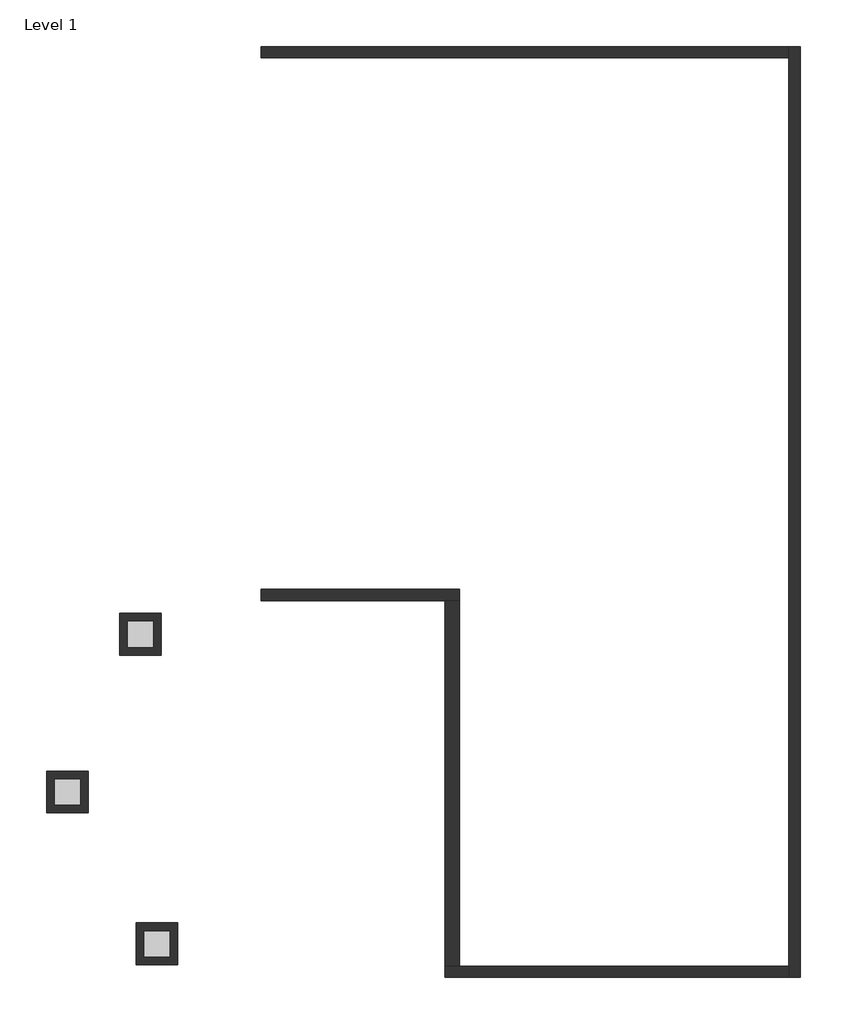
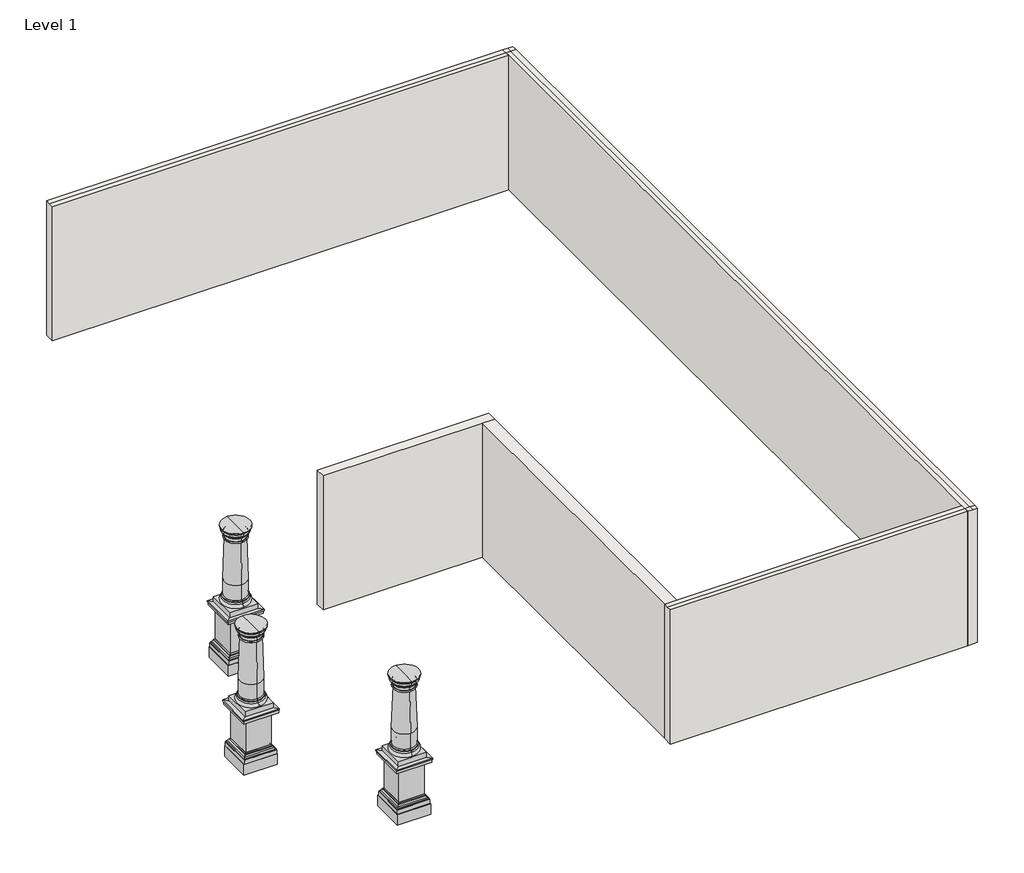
# One storey, incomplete: 5 walls, 3 columns.
"""IFC4 building model written with IfcOpenShell, lengths in millimetres."""

import ifcopenshell
import ifcopenshell.guid

model = None  # the IFC model being written
_history = None  # IfcOwnerHistory: only IFC2X3 demands one
_inside = {}  # id of a spatial element -> (the spatial element, [elements in it])
_under = {}  # id of a project, library or spatial element -> (it, [spatial elements below it])
_declared = {}  # id of a project -> (the project, [libraries it declares])
_typed = {}  # id of a type object -> (the type object, [elements of that type])
_made_of = {}  # id of a material, layer set ... -> (it, [elements and type objects made of it])


def new_model(schema):
    """Start an empty IFC model of exactly this schema.

    Asked for "IFC4X3", IfcOpenShell would pick the latest addendum, in which some entities
    have other attributes; the version numbers below select the first issue.
    IFC2X3 requires an IfcOwnerHistory on every rooted entity: one is made here for all.
    """
    global model, _history
    if schema == "IFC4X3":
        model = ifcopenshell.file(schema_version=(4, 3, 0, 0))
    else:
        model = ifcopenshell.file(schema=schema)
    _inside.clear()
    _under.clear()
    _declared.clear()
    _typed.clear()
    _made_of.clear()
    _history = None
    if model.schema == "IFC2X3":
        org = make("IfcOrganization", Name="unknown")
        user = make(
            "IfcPersonAndOrganization",
            ThePerson=make("IfcPerson", FamilyName="unknown"),
            TheOrganization=org,
        )
        app = make(
            "IfcApplication",
            ApplicationDeveloper=org,
            Version="unknown",
            ApplicationFullName="unknown",
            ApplicationIdentifier="unknown",
        )
        _history = make(
            "IfcOwnerHistory",
            OwningUser=user,
            OwningApplication=app,
            ChangeAction="ADDED",
            CreationDate=0,
        )
    return model


def make(cls, **values):
    """One entity of the class cls with the attributes given. An attribute that is None is left unset."""
    return model.create_entity(
        cls, **{name: value for name, value in values.items() if value is not None}
    )


def rooted(cls, **values):
    """An entity with a GlobalId (a new one), such as an element, a storey or a relation."""
    return make(cls, GlobalId=ifcopenshell.guid.new(), OwnerHistory=_history, **values)


def si_unit(unit_type, name, prefix=None):
    """IfcSIUnit, for example si_unit("LENGTHUNIT", "METRE", prefix="MILLI")."""
    return make("IfcSIUnit", UnitType=unit_type, Prefix=prefix, Name=name)


def assignment(units):
    """IfcUnitAssignment: the units of a project."""
    return None if units is None else make("IfcUnitAssignment", Units=units)


def point(xyz):
    """IfcCartesianPoint."""
    return None if xyz is None else make("IfcCartesianPoint", Coordinates=xyz)


def direction(xyz):
    """IfcDirection."""
    return None if xyz is None else make("IfcDirection", DirectionRatios=xyz)


def frame(location, z_axis=None, x_axis=None):
    """IfcAxis2Placement3D, a coordinate frame: its origin and axes. An axis left out is left unset."""
    return make(
        "IfcAxis2Placement3D",
        Location=point(location),
        Axis=direction(z_axis),
        RefDirection=direction(x_axis),
    )


def origin():
    """The frame at (0, 0, 0) with its axes left unset."""
    return frame((0.0, 0.0, 0.0))


def origin_with_axes():
    """The frame at (0, 0, 0) with the z axis (0, 0, 1) and the x axis (1, 0, 0) written out."""
    return frame((0.0, 0.0, 0.0), z_axis=(0.0, 0.0, 1.0), x_axis=(1.0, 0.0, 0.0))


def place(relative_to, where):
    """IfcLocalPlacement: puts the frame where relative to a parent placement (None: the world)."""
    return make(
        "IfcLocalPlacement", PlacementRelTo=relative_to, RelativePlacement=where
    )


def context(
    kind, dimensions, precision=None, world=None, true_north=None, identifier=None
):
    """IfcGeometricRepresentationContext, for example the 3D "Model" context."""
    return make(
        "IfcGeometricRepresentationContext",
        ContextIdentifier=identifier,
        ContextType=kind,
        CoordinateSpaceDimension=dimensions,
        Precision=precision,
        WorldCoordinateSystem=world,
        TrueNorth=true_north,
    )


def project(units=None, contexts=None):
    """IfcProject with its units and contexts."""
    return rooted(
        "IfcProject",
        Name="project",
        RepresentationContexts=contexts,
        UnitsInContext=assignment(units),
    )


def spatial(cls, under=None, at=None, **own):
    """A site, building, storey or space (cls), placed at a placement, below another one or the project."""
    s = rooted(cls, ObjectPlacement=at, **own)
    if under is not None:
        _under.setdefault(under.id(), (under, []))[1].append(s)
    return s


def polyline(points):
    """IfcPolyline through the points."""
    return make("IfcPolyline", Points=[point(p) for p in points])


def circle_curve(where, radius):
    """IfcCircle in the frame where."""
    return make("IfcCircle", Position=where, Radius=radius)


def ellipse_curve(where, semi_axis1, semi_axis2):
    """IfcEllipse in the frame where."""
    return make(
        "IfcEllipse", Position=where, SemiAxis1=semi_axis1, SemiAxis2=semi_axis2
    )


def trimmed(basis, trim1, trim2, sense, master):
    """IfcTrimmedCurve: the piece of a basis curve between two trims."""
    return make(
        "IfcTrimmedCurve",
        BasisCurve=basis,
        Trim1=trim1,
        Trim2=trim2,
        SenseAgreement=sense,
        MasterRepresentation=master,
    )


def outline(outer, holes=None, kind="AREA"):
    """IfcArbitraryClosedProfileDef: a profile drawn as a closed curve; with holes, ...WithVoids."""
    if holes is None:
        return make("IfcArbitraryClosedProfileDef", ProfileType=kind, OuterCurve=outer)
    return make(
        "IfcArbitraryProfileDefWithVoids",
        ProfileType=kind,
        OuterCurve=outer,
        InnerCurves=holes,
    )


def extrude(swept, where, along, depth):
    """IfcExtrudedAreaSolid: the profile swept, set in the frame where, extruded along a direction by depth."""
    return make(
        "IfcExtrudedAreaSolid",
        SweptArea=swept,
        Position=where,
        ExtrudedDirection=direction(along),
        Depth=depth,
    )


def faces_of(points, faces, orient=None, outer=None):
    """IfcFace entities. A face is a list of loops; a loop is a list of indices into points, from 0.

    orient and outer hold one flag for each loop. By default every Orientation is true, the
    first loop of a face is its IfcFaceOuterBound and the others are IfcFaceBound.
    """
    made = []
    for i, loops in enumerate(faces):
        bounds = []
        for j, loop in enumerate(loops):
            is_outer = j == 0 if outer is None else outer[i][j]
            bounds.append(
                make(
                    "IfcFaceOuterBound" if is_outer else "IfcFaceBound",
                    Bound=make("IfcPolyLoop", Polygon=[points[k] for k in loop]),
                    Orientation=True if orient is None else orient[i][j],
                )
            )
        made.append(make("IfcFace", Bounds=bounds))
    return made


def faceted_brep(points, faces, orient=None, outer=None, voids=None):
    """IfcFacetedBrep: a solid bounded by flat faces; with voids (closed shells), ...WithVoids."""
    shared = [point(p) for p in points]
    hull = make("IfcClosedShell", CfsFaces=faces_of(shared, faces, orient, outer))
    if voids is None:
        return make("IfcFacetedBrep", Outer=hull)
    return make(
        "IfcFacetedBrepWithVoids",
        Outer=hull,
        Voids=[
            make(cls, CfsFaces=faces_of(shared, fs, o, b)) for cls, fs, o, b in voids
        ],
    )


def shape(context_of_items, identifier, shape_type, items):
    """IfcShapeRepresentation: the items that make up one representation, for example the "Body"."""
    return make(
        "IfcShapeRepresentation",
        ContextOfItems=context_of_items,
        RepresentationIdentifier=identifier,
        RepresentationType=shape_type,
        Items=items,
    )


def source(mapping_origin, context_of_items, identifier, shape_type, items):
    """IfcRepresentationMap: a shape defined once, which mapped items show again and again."""
    return make(
        "IfcRepresentationMap",
        MappingOrigin=mapping_origin,
        MappedRepresentation=shape(context_of_items, identifier, shape_type, items),
    )


def transform(
    local_origin,
    x_axis=None,
    y_axis=None,
    z_axis=None,
    scale=None,
    scale2=None,
    scale3=None,
    uniform=True,
):
    """IfcCartesianTransformationOperator3D, or its non-uniform kind. x_axis, y_axis, z_axis: its Axis1, 2, 3."""
    if uniform:
        return make(
            "IfcCartesianTransformationOperator3D",
            Axis1=direction(x_axis),
            Axis2=direction(y_axis),
            LocalOrigin=point(local_origin),
            Scale=scale,
            Axis3=direction(z_axis),
        )
    return make(
        "IfcCartesianTransformationOperator3DnonUniform",
        Axis1=direction(x_axis),
        Axis2=direction(y_axis),
        LocalOrigin=point(local_origin),
        Scale=scale,
        Axis3=direction(z_axis),
        Scale2=scale2,
        Scale3=scale3,
    )


def mapped(mapping_source, mapping_target):
    """IfcMappedItem: shows the shape of a source again, moved by a transform."""
    return make(
        "IfcMappedItem", MappingSource=mapping_source, MappingTarget=mapping_target
    )


def made_of(thing, what):
    """Note that an element or type object is made of a material, layer set ...; save() writes the relation."""
    if what is not None:
        _made_of.setdefault(what.id(), (what, []))[1].append(thing)
    return thing


def element(
    cls,
    number,
    at=None,
    inside=None,
    cuts=None,
    type_object=None,
    material=None,
    context=None,
    identifier="Body",
    shape_type=None,
    held_by="IfcProductDefinitionShape",
    body=None,
    shapes=None,
    **own,
):
    """One element of the class cls, such as IfcWall. Its Tag is "e" and its number.

    at: its placement. inside: the storey or other place that contains it. cuts: it is an
    opening in that element (IfcRelVoidsElement). A single representation is given by context,
    identifier, shape_type and body (its items); several are given by shapes. held_by: the class
    of the entity that holds the representations. save() writes the other relations.
    """
    e = rooted(cls, Tag="e%d" % number, ObjectPlacement=at, **own)
    if body is not None:
        shapes = [shape(context, identifier, shape_type, body)]
    if shapes is not None:
        e.Representation = make(held_by, Representations=shapes)
    if inside is not None:
        _inside.setdefault(inside.id(), (inside, []))[1].append(e)
    if cuts is not None:
        rooted(
            "IfcRelVoidsElement", RelatingBuildingElement=cuts, RelatedOpeningElement=e
        )
    if type_object is not None:
        _typed.setdefault(type_object.id(), (type_object, []))[1].append(e)
    return made_of(e, material)


def aggregate(whole, parts):
    """IfcRelAggregates: a whole, such as a stair, and the parts it consists of."""
    return rooted("IfcRelAggregates", RelatingObject=whole, RelatedObjects=parts)


def save(model, path):
    """Write the relations noted so far, then the file.

    IfcRelAggregates (storeys below a building ...), IfcRelContainedInSpatialStructure (elements
    in a storey), IfcRelDefinesByType, IfcRelAssociatesMaterial and IfcRelDeclares: one each for
    every whole, place, type object, material and project.
    """
    for whole, parts in _under.values():
        aggregate(whole, parts)
    for where, things in _inside.values():
        rooted(
            "IfcRelContainedInSpatialStructure",
            RelatedElements=things,
            RelatingStructure=where,
        )
    for kind, things in _typed.values():
        rooted("IfcRelDefinesByType", RelatedObjects=things, RelatingType=kind)
    for what, things in _made_of.values():
        rooted("IfcRelAssociatesMaterial", RelatedObjects=things, RelatingMaterial=what)
    for by, libraries in _declared.values():
        rooted("IfcRelDeclares", RelatingContext=by, RelatedDefinitions=libraries)
    model.write(path)


def plane_surface(at):
    """IfcPlane: the flat surface through the origin of the frame at, square to its z axis."""
    return make("IfcPlane", Position=at)


def cylinder_surface(at, radius):
    """IfcCylindricalSurface: all points at the distance radius from the z axis of the frame at."""
    return make("IfcCylindricalSurface", Position=at, Radius=radius)


def revolved_surface(curve, axis_point, axis_direction):
    """IfcSurfaceOfRevolution: the curve turned about the line through axis_point along axis_direction."""
    return make(
        "IfcSurfaceOfRevolution",
        SweptCurve=make("IfcArbitraryOpenProfileDef", ProfileType="CURVE", Curve=curve),
        AxisPosition=make("IfcAxis1Placement", Location=point(axis_point), Axis=direction(axis_direction)),
    )


def advanced_brep(points, edges, surfaces, faces):
    """IfcAdvancedBrep: a solid bounded by faces that lie on surfaces and meet in shared edges.

    An edge is (start, end): straight between two places in points (the first is 0);
    or (start, end, curve); or (start, end, curve, False) where it runs against its curve.
    A face is (place in surfaces, loops), or (place, loops, False) where it looks against
    its surface's normal. A loop lists edges by number (the first is 1), with a minus sign
    where the edge is run from its end to its start. The first loop is the outer one.
    """
    corners = [point(p) for p in points]
    vertices = [make("IfcVertexPoint", VertexGeometry=c) for c in corners]
    made = []
    for start, end, *more in edges:
        made.append(
            make(
                "IfcEdgeCurve",
                EdgeStart=vertices[start],
                EdgeEnd=vertices[end],
                EdgeGeometry=more[0] if more else make("IfcPolyline", Points=[corners[start], corners[end]]),
                SameSense=more[1] if len(more) > 1 else True,
            )
        )
    hull = []
    for where, loops, *sense in faces:
        bounds = []
        for j, loop in enumerate(loops):
            ring = [make("IfcOrientedEdge", EdgeElement=made[abs(k) - 1], Orientation=k > 0) for k in loop]
            bounds.append(
                make(
                    "IfcFaceOuterBound" if j == 0 else "IfcFaceBound",
                    Bound=make("IfcEdgeLoop", EdgeList=ring),
                    Orientation=True,
                )
            )
        hull.append(make("IfcAdvancedFace", Bounds=bounds, FaceSurface=surfaces[where], SameSense=sense[0] if sense else True))
    return make("IfcAdvancedBrep", Outer=make("IfcClosedShell", CfsFaces=hull))


def doric_column_f5a78e18(model_context):
    return source(origin(), model_context, "Body", "SolidModel", [
        extrude(outline(polyline([(263.525, 263.525), (263.525, -263.525), (-263.525, -263.525), (-263.525, 263.525), (263.525, 263.525)])), frame((0.0, 0.0, 419.1), z_axis=(0.0, 0.0, 1.0), x_axis=(1.0, 0.0, 0.0)), (0.0, 0.0, 1.0), 685.8),
        advanced_brep(
        [(345.4451463, 345.4451463, 0.0), (345.4451463, 345.4451463, 228.6), (345.4451463, -345.4451463, 228.6), (345.4451463, -345.4451463, 0.0), (228.6, 228.6, 0.0), (228.6, -228.6, 0.0), (228.6, 228.6, 419.1), (228.6, -228.6, 419.1), (262.8951463, 262.8951463, 419.1), (262.8951463, -262.8951463, 419.1), (281.9451463, 281.9451463, 400.05), (281.9451463, -281.9451463, 400.05), (281.9451463, 281.9451463, 381.0), (281.9451463, -281.9451463, 381.0), (304.1701463, 304.1701463, 358.775), (304.1701463, -304.1701463, 358.775), (326.3951463, 326.3951463, 336.55), (326.3951463, -326.3951463, 336.55), (326.3951463, 326.3951463, 317.5), (326.3951463, -326.3951463, 317.5), (335.9201463, 335.9201463, 317.5), (335.9201463, -335.9201463, 317.5), (335.9201463, 335.9201463, 228.6), (335.9201463, -335.9201463, 228.6), (-345.4451463, -345.4451463, 228.6), (-345.4451463, -345.4451463, 0.0), (-228.6, -228.6, 0.0), (-228.6, -228.6, 419.1), (-262.8951463, -262.8951463, 419.1), (-281.9451463, -281.9451463, 400.05), (-281.9451463, -281.9451463, 381.0), (-304.1701463, -304.1701463, 358.775), (-326.3951463, -326.3951463, 336.55), (-326.3951463, -326.3951463, 317.5), (-335.9201463, -335.9201463, 317.5), (-335.9201463, -335.9201463, 228.6), (-345.4451463, 345.4451463, 228.6), (-345.4451463, 345.4451463, 0.0), (-228.6, 228.6, 0.0), (-228.6, 228.6, 419.1), (-262.8951463, 262.8951463, 419.1), (-281.9451463, 281.9451463, 400.05), (-281.9451463, 281.9451463, 381.0), (-304.1701463, 304.1701463, 358.775), (-326.3951463, 326.3951463, 336.55), (-326.3951463, 326.3951463, 317.5), (-335.9201463, 335.9201463, 317.5), (-335.9201463, 335.9201463, 228.6)],
        [
            (0, 1),
            (1, 2),
            (2, 3),
            (3, 0),
            (4, 0),
            (3, 5),
            (5, 4),
            (6, 4),
            (5, 7),
            (7, 6),
            (8, 6),
            (7, 9),
            (9, 8),
            (10, 8, ellipse_curve(frame((281.9451463, 281.9451463, 419.1), z_axis=(-0.7071067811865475, 0.7071067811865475, 0.0), x_axis=(-0.7071067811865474, -0.7071067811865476, 0.0)), 26.9407684, 19.05)),
            (9, 11, ellipse_curve(frame((281.9451463, -281.9451463, 419.1), z_axis=(-0.7071067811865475, -0.7071067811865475, 0.0), x_axis=(0.7071067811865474, -0.7071067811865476, 0.0)), 26.9407684, 19.05)),
            (11, 10),
            (12, 10),
            (11, 13),
            (13, 12),
            (14, 12, ellipse_curve(frame((281.9451463, 281.9451463, 358.775), z_axis=(0.7071067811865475, -0.7071067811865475, 0.0), x_axis=(0.7071067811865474, 0.7071067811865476, 0.0)), 31.4308964, 22.225)),
            (13, 15, ellipse_curve(frame((281.9451463, -281.9451463, 358.775), z_axis=(0.7071067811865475, 0.7071067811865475, 0.0), x_axis=(-0.7071067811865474, 0.7071067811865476, 0.0)), 31.4308964, 22.225)),
            (15, 14),
            (16, 14, ellipse_curve(frame((326.3951463, 326.3951463, 358.775), z_axis=(-0.7071067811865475, 0.7071067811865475, 0.0), x_axis=(-0.7071067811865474, -0.7071067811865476, 0.0)), 31.4308964, 22.225)),
            (15, 17, ellipse_curve(frame((326.3951463, -326.3951463, 358.775), z_axis=(-0.7071067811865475, -0.7071067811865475, 0.0), x_axis=(0.7071067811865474, -0.7071067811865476, 0.0)), 31.4308964, 22.225)),
            (17, 16),
            (18, 16),
            (17, 19),
            (19, 18),
            (20, 18),
            (19, 21),
            (21, 20),
            (22, 20),
            (21, 23),
            (23, 22),
            (1, 22),
            (23, 2),
            (2, 24),
            (24, 25),
            (25, 3),
            (25, 26),
            (26, 5),
            (26, 27),
            (27, 7),
            (27, 28),
            (28, 9),
            (28, 29, ellipse_curve(frame((-281.9451463, -281.9451463, 419.1), z_axis=(-0.7071067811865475, 0.7071067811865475, 0.0), x_axis=(-0.7071067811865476, -0.7071067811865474, 0.0)), 26.9407684, 19.05)),
            (29, 11),
            (29, 30),
            (30, 13),
            (30, 31, ellipse_curve(frame((-281.9451463, -281.9451463, 358.775), z_axis=(0.7071067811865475, -0.7071067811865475, 0.0), x_axis=(0.7071067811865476, 0.7071067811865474, 0.0)), 31.4308964, 22.225)),
            (31, 15),
            (31, 32, ellipse_curve(frame((-326.3951463, -326.3951463, 358.775), z_axis=(-0.7071067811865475, 0.7071067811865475, 0.0), x_axis=(-0.7071067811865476, -0.7071067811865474, 0.0)), 31.4308964, 22.225)),
            (32, 17),
            (32, 33),
            (33, 19),
            (33, 34),
            (34, 21),
            (34, 35),
            (35, 23),
            (35, 24),
            (24, 36),
            (36, 37),
            (37, 25),
            (37, 38),
            (38, 26),
            (38, 39),
            (39, 27),
            (39, 40),
            (40, 28),
            (40, 41, ellipse_curve(frame((-281.9451463, 281.9451463, 419.1), z_axis=(0.7071067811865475, 0.7071067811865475, 0.0), x_axis=(-0.7071067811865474, 0.7071067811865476, 0.0)), 26.9407684, 19.05)),
            (41, 29),
            (41, 42),
            (42, 30),
            (42, 43, ellipse_curve(frame((-281.9451463, 281.9451463, 358.775), z_axis=(-0.7071067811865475, -0.7071067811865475, 0.0), x_axis=(0.7071067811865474, -0.7071067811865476, 0.0)), 31.4308964, 22.225)),
            (43, 31),
            (43, 44, ellipse_curve(frame((-326.3951463, 326.3951463, 358.775), z_axis=(0.7071067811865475, 0.7071067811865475, 0.0), x_axis=(-0.7071067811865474, 0.7071067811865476, 0.0)), 31.4308964, 22.225)),
            (44, 32),
            (44, 45),
            (45, 33),
            (45, 46),
            (46, 34),
            (46, 47),
            (47, 35),
            (47, 36),
            (36, 1),
            (0, 37),
            (4, 38),
            (6, 39),
            (8, 40),
            (10, 41),
            (12, 42),
            (14, 43),
            (16, 44),
            (18, 45),
            (20, 46),
            (22, 47),
        ],
        [
            plane_surface(frame((345.4451463, 345.4451463, 228.6), z_axis=(1.0, 0.0, 0.0), x_axis=(0.0, -1.0, 0.0))),
            plane_surface(frame((345.4451463, 345.4451463, 0.0), z_axis=(0.0, 0.0, -1.0), x_axis=(0.0, -1.0, 0.0))),
            plane_surface(frame((228.6, 228.6, 0.0), z_axis=(-1.0, 0.0, 0.0), x_axis=(0.0, -1.0, 0.0))),
            plane_surface(frame((228.6, 228.6, 419.1), z_axis=(0.0, 0.0, 1.0), x_axis=(0.0, -1.0, 0.0))),
            revolved_surface(polyline([(300.9951463, -300.9951463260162, 419.1), (300.9951463, 300.99514632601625, 419.1)]), (281.9451463, 358.4600732, 419.1), (0.0, -1.0, 0.0)),
            plane_surface(frame((281.9451463, 281.9451463, 400.05), z_axis=(1.0, 0.0, 0.0), x_axis=(0.0, -1.0, 0.0))),
            cylinder_surface(frame((281.9451463, 358.4600732, 358.775), z_axis=(0.0, 1.0, 0.0), x_axis=(1.0, 0.0, 0.0)), 22.225),
            revolved_surface(polyline([(348.62014630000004, -348.62014628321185, 358.775), (348.62014630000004, 348.62014628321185, 358.775)]), (326.3951463, 358.4600732, 358.775), (0.0, -1.0, 0.0)),
            plane_surface(frame((326.3951463, 326.3951463, 336.55), z_axis=(1.0, 0.0, 0.0), x_axis=(0.0, -1.0, 0.0))),
            plane_surface(frame((326.3951463, 326.3951463, 317.5), z_axis=(0.0, 0.0, 1.0), x_axis=(0.0, -1.0, 0.0))),
            plane_surface(frame((335.9201463, 335.9201463, 317.5), z_axis=(1.0, 0.0, 0.0), x_axis=(0.0, -1.0, 0.0))),
            plane_surface(frame((335.9201463, 335.9201463, 228.6), z_axis=(0.0, 0.0, 1.0), x_axis=(0.0, -1.0, 0.0))),
            plane_surface(frame((345.4451463, -345.4451463, 228.6), z_axis=(0.0, -1.0, 0.0), x_axis=(-1.0, 0.0, 0.0))),
            plane_surface(frame((345.4451463, -345.4451463, 0.0), z_axis=(0.0, 0.0, -1.0), x_axis=(-1.0, 0.0, 0.0))),
            plane_surface(frame((228.6, -228.6, 0.0), z_axis=(0.0, 1.0, 0.0), x_axis=(-1.0, 0.0, 0.0))),
            plane_surface(frame((228.6, -228.6, 419.1), z_axis=(0.0, 0.0, 1.0), x_axis=(-1.0, 0.0, 0.0))),
            revolved_surface(polyline([(-300.9951463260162, -300.9951463, 419.1), (300.9951463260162, -300.9951463, 419.1)]), (358.4600732, -281.9451463, 419.1), (-1.0, 0.0, 0.0)),
            plane_surface(frame((281.9451463, -281.9451463, 400.05), z_axis=(0.0, -1.0, 0.0), x_axis=(-1.0, 0.0, 0.0))),
            cylinder_surface(frame((358.4600732, -281.9451463, 358.775), z_axis=(1.0, 0.0, 0.0), x_axis=(0.0, -1.0, 0.0)), 22.225),
            revolved_surface(polyline([(-348.62014628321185, -348.62014630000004, 358.775), (348.62014628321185, -348.62014630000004, 358.775)]), (358.4600732, -326.3951463, 358.775), (-1.0, 0.0, 0.0)),
            plane_surface(frame((326.3951463, -326.3951463, 336.55), z_axis=(0.0, -1.0, 0.0), x_axis=(-1.0, 0.0, 0.0))),
            plane_surface(frame((326.3951463, -326.3951463, 317.5), z_axis=(0.0, 0.0, 1.0), x_axis=(-1.0, 0.0, 0.0))),
            plane_surface(frame((335.9201463, -335.9201463, 317.5), z_axis=(0.0, -1.0, 0.0), x_axis=(-1.0, 0.0, 0.0))),
            plane_surface(frame((335.9201463, -335.9201463, 228.6), z_axis=(0.0, 0.0, 1.0), x_axis=(-1.0, 0.0, 0.0))),
            plane_surface(frame((-345.4451463, -345.4451463, 228.6), z_axis=(-1.0, 0.0, 0.0), x_axis=(0.0, 1.0, 0.0))),
            plane_surface(frame((-345.4451463, -345.4451463, 0.0), z_axis=(0.0, 0.0, -1.0), x_axis=(0.0, 1.0, 0.0))),
            plane_surface(frame((-228.6, -228.6, 0.0), z_axis=(1.0, 0.0, 0.0), x_axis=(0.0, 1.0, 0.0))),
            plane_surface(frame((-228.6, -228.6, 419.1), z_axis=(0.0, 0.0, 1.0), x_axis=(0.0, 1.0, 0.0))),
            revolved_surface(polyline([(-300.9951463, 300.9951463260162, 419.1), (-300.9951463, -300.9951463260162, 419.1)]), (-281.9451463, -358.4600732, 419.1), (0.0, 1.0, 0.0)),
            plane_surface(frame((-281.9451463, -281.9451463, 400.05), z_axis=(-1.0, 0.0, 0.0), x_axis=(0.0, 1.0, 0.0))),
            cylinder_surface(frame((-281.9451463, -358.4600732, 358.775), z_axis=(0.0, -1.0, 0.0), x_axis=(-1.0, 0.0, 0.0)), 22.225),
            revolved_surface(polyline([(-348.62014630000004, 348.62014628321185, 358.775), (-348.62014630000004, -348.62014628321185, 358.775)]), (-326.3951463, -358.4600732, 358.775), (0.0, 1.0, 0.0)),
            plane_surface(frame((-326.3951463, -326.3951463, 336.55), z_axis=(-1.0, 0.0, 0.0), x_axis=(0.0, 1.0, 0.0))),
            plane_surface(frame((-326.3951463, -326.3951463, 317.5), z_axis=(0.0, 0.0, 1.0), x_axis=(0.0, 1.0, 0.0))),
            plane_surface(frame((-335.9201463, -335.9201463, 317.5), z_axis=(-1.0, 0.0, 0.0), x_axis=(0.0, 1.0, 0.0))),
            plane_surface(frame((-335.9201463, -335.9201463, 228.6), z_axis=(0.0, 0.0, 1.0), x_axis=(0.0, 1.0, 0.0))),
            plane_surface(frame((-345.4451463, 345.4451463, 228.6), z_axis=(0.0, 1.0, 0.0), x_axis=(1.0, 0.0, 0.0))),
            plane_surface(frame((-345.4451463, 345.4451463, 0.0), z_axis=(0.0, 0.0, -1.0), x_axis=(1.0, 0.0, 0.0))),
            plane_surface(frame((-228.6, 228.6, 0.0), z_axis=(0.0, -1.0, 0.0), x_axis=(1.0, 0.0, 0.0))),
            plane_surface(frame((-228.6, 228.6, 419.1), z_axis=(0.0, 0.0, 1.0), x_axis=(1.0, 0.0, 0.0))),
            revolved_surface(polyline([(300.9951463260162, 300.9951463, 419.1), (-300.9951463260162, 300.9951463, 419.1)]), (-358.4600732, 281.9451463, 419.1), (1.0, 0.0, 0.0)),
            plane_surface(frame((-281.9451463, 281.9451463, 400.05), z_axis=(0.0, 1.0, 0.0), x_axis=(1.0, 0.0, 0.0))),
            cylinder_surface(frame((-358.4600732, 281.9451463, 358.775), z_axis=(-1.0, 0.0, 0.0), x_axis=(0.0, 1.0, 0.0)), 22.225),
            revolved_surface(polyline([(348.62014628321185, 348.62014630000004, 358.775), (-348.62014628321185, 348.62014630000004, 358.775)]), (-358.4600732, 326.3951463, 358.775), (1.0, 0.0, 0.0)),
            plane_surface(frame((-326.3951463, 326.3951463, 336.55), z_axis=(0.0, 1.0, 0.0), x_axis=(1.0, 0.0, 0.0))),
            plane_surface(frame((-326.3951463, 326.3951463, 317.5), z_axis=(0.0, 0.0, 1.0), x_axis=(1.0, 0.0, 0.0))),
            plane_surface(frame((-335.9201463, 335.9201463, 317.5), z_axis=(0.0, 1.0, 0.0), x_axis=(1.0, 0.0, 0.0))),
            plane_surface(frame((-335.9201463, 335.9201463, 228.6), z_axis=(0.0, 0.0, 1.0), x_axis=(1.0, 0.0, 0.0))),
        ],
        [
            (0, [[1, 2, 3, 4]]),
            (1, [[5, -4, 6, 7]]),
            (2, [[8, -7, 9, 10]]),
            (3, [[11, -10, 12, 13]]),
            (4, [[14, -13, 15, 16]]),
            (5, [[17, -16, 18, 19]]),
            (6, [[20, -19, 21, 22]]),
            (7, [[23, -22, 24, 25]]),
            (8, [[26, -25, 27, 28]]),
            (9, [[29, -28, 30, 31]]),
            (10, [[32, -31, 33, 34]]),
            (11, [[35, -34, 36, -2]]),
            (12, [[-3, 37, 38, 39]]),
            (13, [[-6, -39, 40, 41]]),
            (14, [[-9, -41, 42, 43]]),
            (15, [[-12, -43, 44, 45]]),
            (16, [[-15, -45, 46, 47]]),
            (17, [[-18, -47, 48, 49]]),
            (18, [[-21, -49, 50, 51]]),
            (19, [[-24, -51, 52, 53]]),
            (20, [[-27, -53, 54, 55]]),
            (21, [[-30, -55, 56, 57]]),
            (22, [[-33, -57, 58, 59]]),
            (23, [[-36, -59, 60, -37]]),
            (24, [[-38, 61, 62, 63]]),
            (25, [[-40, -63, 64, 65]]),
            (26, [[-42, -65, 66, 67]]),
            (27, [[-44, -67, 68, 69]]),
            (28, [[-46, -69, 70, 71]]),
            (29, [[-48, -71, 72, 73]]),
            (30, [[-50, -73, 74, 75]]),
            (31, [[-52, -75, 76, 77]]),
            (32, [[-54, -77, 78, 79]]),
            (33, [[-56, -79, 80, 81]]),
            (34, [[-58, -81, 82, 83]]),
            (35, [[-60, -83, 84, -61]]),
            (36, [[-62, 85, -1, 86]]),
            (37, [[-64, -86, -5, 87]]),
            (38, [[-66, -87, -8, 88]]),
            (39, [[-68, -88, -11, 89]]),
            (40, [[-70, -89, -14, 90]]),
            (41, [[-72, -90, -17, 91]]),
            (42, [[-74, -91, -20, 92]]),
            (43, [[-76, -92, -23, 93]]),
            (44, [[-78, -93, -26, 94]]),
            (45, [[-80, -94, -29, 95]]),
            (46, [[-82, -95, -32, 96]]),
            (47, [[-84, -96, -35, -85]]),
        ],
    ),
        advanced_brep(
        [(0.0, -247.65, 1460.5), (0.0, 247.65, 1460.5), (0.0, 228.6, 1479.55), (0.0, -228.6, 1479.55), (0.0, 228.6, 1803.4), (0.0, -228.6, 1803.4), (0.0, -247.65, 1441.45), (0.0, 247.65, 1441.45), (0.0, -247.65, 1409.7), (0.0, 247.65, 1409.7), (0.0, -247.65, 1327.15), (0.0, 247.65, 1327.15), (0.0, 0.0, 1327.15), (0.0, 200.025, 2717.8), (0.0, -200.025, 2717.8), (0.0, -292.1, 2952.7500601), (0.0, 292.1, 2952.7500601), (0.0, 292.1, 2971.8), (0.0, -292.1, 2971.8), (0.0, 0.0, 2971.8), (0.0, -273.0499399, 2933.7), (0.0, 273.0499399, 2933.7), (0.0, -269.875, 2933.7), (0.0, 269.875, 2933.7), (0.0, -269.875, 2882.9), (0.0, 269.875, 2882.9), (0.0, -263.525, 2882.9), (0.0, 263.525, 2882.9), (0.0, -219.075, 2838.45), (0.0, 219.075, 2838.45), (0.0, -219.075, 2819.4), (0.0, 219.075, 2819.4), (0.0, -200.025, 2819.4), (0.0, 200.025, 2819.4), (0.0, -200.025, 2736.85), (0.0, 200.025, 2736.85), (0.0, -219.075, 2736.85), (0.0, 219.075, 2736.85), (0.0, -219.075, 2717.8), (0.0, 219.075, 2717.8)],
        [
            (0, 1, circle_curve(frame((0.0, 0.0, 1460.5), z_axis=(0.0, 0.0, 1.0), x_axis=(0.0, 1.0, 0.0)), 247.65)),
            (1, 2, circle_curve(frame((0.0, 247.65, 1479.55), z_axis=(-1.0, 0.0, 0.0), x_axis=(0.0, -1.0, 0.0)), 19.05)),
            (2, 3, circle_curve(frame((0.0, 0.0, 1479.55), z_axis=(0.0, 0.0, -1.0), x_axis=(0.0, 1.0, 0.0)), 228.6)),
            (3, 0, circle_curve(frame((0.0, -247.65, 1479.55), z_axis=(-1.0, 0.0, 0.0), x_axis=(0.0, 1.0, 0.0)), 19.05)),
            (2, 4),
            (4, 5, circle_curve(frame((0.0, 0.0, 1803.4), z_axis=(0.0, 0.0, -1.0), x_axis=(0.0, 1.0, 0.0)), 228.6)),
            (5, 3),
            (2, 3, circle_curve(frame((0.0, 0.0, 1479.55), z_axis=(0.0, 0.0, 1.0), x_axis=(0.0, 1.0, 0.0)), 228.6)),
            (5, 4, circle_curve(frame((0.0, 0.0, 1803.4), z_axis=(0.0, 0.0, -1.0), x_axis=(0.0, 1.0, 0.0)), 228.6)),
            (1, 0, circle_curve(frame((0.0, 0.0, 1460.5), z_axis=(0.0, 0.0, 1.0), x_axis=(0.0, 1.0, 0.0)), 247.65)),
            (6, 7, circle_curve(frame((0.0, 0.0, 1441.45), z_axis=(0.0, 0.0, 1.0), x_axis=(0.0, 1.0, 0.0)), 247.65)),
            (7, 1),
            (0, 6),
            (7, 6, circle_curve(frame((0.0, 0.0, 1441.45), z_axis=(0.0, 0.0, 1.0), x_axis=(0.0, 1.0, 0.0)), 247.65)),
            (8, 9, circle_curve(frame((0.0, 0.0, 1409.7), z_axis=(0.0, 0.0, 1.0), x_axis=(0.0, 1.0, 0.0)), 247.65)),
            (9, 7, circle_curve(frame((0.0, 247.65, 1425.575), z_axis=(1.0, 0.0, 0.0), x_axis=(0.0, -1.0, 0.0)), 15.875)),
            (6, 8, circle_curve(frame((0.0, -247.65, 1425.575), z_axis=(1.0, 0.0, 0.0), x_axis=(0.0, 1.0, 0.0)), 15.875)),
            (9, 8, circle_curve(frame((0.0, 0.0, 1409.7), z_axis=(0.0, 0.0, 1.0), x_axis=(0.0, 1.0, 0.0)), 247.65)),
            (10, 11, circle_curve(frame((0.0, 0.0, 1327.15), z_axis=(0.0, 0.0, 1.0), x_axis=(0.0, 1.0, 0.0)), 247.65)),
            (11, 9, circle_curve(frame((0.0, 247.65, 1368.425), z_axis=(1.0, 0.0, 0.0), x_axis=(0.0, -1.0, 0.0)), 41.275)),
            (8, 10, circle_curve(frame((0.0, -247.65, 1368.425), z_axis=(1.0, 0.0, 0.0), x_axis=(0.0, 1.0, 0.0)), 41.275)),
            (11, 10, circle_curve(frame((0.0, 0.0, 1327.15), z_axis=(0.0, 0.0, 1.0), x_axis=(0.0, 1.0, 0.0)), 247.65)),
            (12, 11),
            (10, 12),
            (4, 13),
            (13, 14, circle_curve(frame((0.0, 0.0, 2717.8), z_axis=(0.0, 0.0, -1.0), x_axis=(0.0, 1.0, 0.0)), 200.025)),
            (14, 5),
            (14, 13, circle_curve(frame((0.0, 0.0, 2717.8), z_axis=(0.0, 0.0, -1.0), x_axis=(0.0, 1.0, 0.0)), 200.025)),
            (15, 16, circle_curve(frame((0.0, 0.0, 2952.7500601), z_axis=(0.0, 0.0, 1.0), x_axis=(0.0, 1.0, 0.0)), 292.1)),
            (16, 17),
            (17, 18, circle_curve(frame((0.0, 0.0, 2971.8), z_axis=(0.0, 0.0, -1.0), x_axis=(0.0, 1.0, 0.0)), 292.1)),
            (18, 15),
            (17, 19),
            (19, 18),
            (17, 18, circle_curve(frame((0.0, 0.0, 2971.8), z_axis=(0.0, 0.0, 1.0), x_axis=(0.0, 1.0, 0.0)), 292.1)),
            (16, 15, circle_curve(frame((0.0, 0.0, 2952.7500601), z_axis=(0.0, 0.0, 1.0), x_axis=(0.0, 1.0, 0.0)), 292.1)),
            (20, 21, circle_curve(frame((0.0, 0.0, 2933.7), z_axis=(0.0, 0.0, 1.0), x_axis=(0.0, 1.0, 0.0)), 273.0499399)),
            (21, 16, circle_curve(frame((0.0, 292.1, 2933.7), z_axis=(-1.0, 0.0, 0.0), x_axis=(0.0, -1.0, 0.0)), 19.0500601)),
            (15, 20, circle_curve(frame((0.0, -292.1, 2933.7), z_axis=(-1.0, 0.0, 0.0), x_axis=(0.0, 1.0, 0.0)), 19.0500601)),
            (21, 20, circle_curve(frame((0.0, 0.0, 2933.7), z_axis=(0.0, 0.0, 1.0), x_axis=(0.0, 1.0, 0.0)), 273.0499399)),
            (22, 23, circle_curve(frame((0.0, 0.0, 2933.7), z_axis=(0.0, 0.0, 1.0), x_axis=(0.0, 1.0, 0.0)), 269.875)),
            (23, 21),
            (20, 22),
            (23, 22, circle_curve(frame((0.0, 0.0, 2933.7), z_axis=(0.0, 0.0, 1.0), x_axis=(0.0, 1.0, 0.0)), 269.875)),
            (24, 25, circle_curve(frame((0.0, 0.0, 2882.9), z_axis=(0.0, 0.0, 1.0), x_axis=(0.0, 1.0, 0.0)), 269.875)),
            (25, 23),
            (22, 24),
            (25, 24, circle_curve(frame((0.0, 0.0, 2882.9), z_axis=(0.0, 0.0, 1.0), x_axis=(0.0, 1.0, 0.0)), 269.875)),
            (26, 27, circle_curve(frame((0.0, 0.0, 2882.9), z_axis=(0.0, 0.0, 1.0), x_axis=(0.0, 1.0, 0.0)), 263.525)),
            (27, 25),
            (24, 26),
            (27, 26, circle_curve(frame((0.0, 0.0, 2882.9), z_axis=(0.0, 0.0, 1.0), x_axis=(0.0, 1.0, 0.0)), 263.525)),
            (28, 29, circle_curve(frame((0.0, 0.0, 2838.45), z_axis=(0.0, 0.0, 1.0), x_axis=(0.0, 1.0, 0.0)), 219.075)),
            (29, 27, circle_curve(frame((0.0, 219.075, 2882.9), z_axis=(1.0, 0.0, 0.0), x_axis=(0.0, -1.0, 0.0)), 44.45)),
            (26, 28, circle_curve(frame((0.0, -219.075, 2882.9), z_axis=(1.0, 0.0, 0.0), x_axis=(0.0, 1.0, 0.0)), 44.45)),
            (29, 28, circle_curve(frame((0.0, 0.0, 2838.45), z_axis=(0.0, 0.0, 1.0), x_axis=(0.0, 1.0, 0.0)), 219.075)),
            (30, 31, circle_curve(frame((0.0, 0.0, 2819.4), z_axis=(0.0, 0.0, 1.0), x_axis=(0.0, 1.0, 0.0)), 219.075)),
            (31, 29, circle_curve(frame((0.0, 219.075, 2828.925), z_axis=(1.0, 0.0, 0.0), x_axis=(0.0, -1.0, 0.0)), 9.525)),
            (28, 30, circle_curve(frame((0.0, -219.075, 2828.925), z_axis=(1.0, 0.0, 0.0), x_axis=(0.0, 1.0, 0.0)), 9.525)),
            (31, 30, circle_curve(frame((0.0, 0.0, 2819.4), z_axis=(0.0, 0.0, 1.0), x_axis=(0.0, 1.0, 0.0)), 219.075)),
            (32, 33, circle_curve(frame((0.0, 0.0, 2819.4), z_axis=(0.0, 0.0, 1.0), x_axis=(0.0, 1.0, 0.0)), 200.025)),
            (33, 31),
            (30, 32),
            (33, 32, circle_curve(frame((0.0, 0.0, 2819.4), z_axis=(0.0, 0.0, 1.0), x_axis=(0.0, 1.0, 0.0)), 200.025)),
            (34, 35, circle_curve(frame((0.0, 0.0, 2736.85), z_axis=(0.0, 0.0, 1.0), x_axis=(0.0, 1.0, 0.0)), 200.025)),
            (35, 33),
            (32, 34),
            (35, 34, circle_curve(frame((0.0, 0.0, 2736.85), z_axis=(0.0, 0.0, 1.0), x_axis=(0.0, 1.0, 0.0)), 200.025)),
            (36, 37, circle_curve(frame((0.0, 0.0, 2736.85), z_axis=(0.0, 0.0, 1.0), x_axis=(0.0, 1.0, 0.0)), 219.075)),
            (37, 35),
            (34, 36),
            (37, 36, circle_curve(frame((0.0, 0.0, 2736.85), z_axis=(0.0, 0.0, 1.0), x_axis=(0.0, 1.0, 0.0)), 219.075)),
            (38, 39, circle_curve(frame((0.0, 0.0, 2717.8), z_axis=(0.0, 0.0, 1.0), x_axis=(0.0, 1.0, 0.0)), 219.075)),
            (39, 37, circle_curve(frame((0.0, 219.075, 2727.325), z_axis=(1.0, 0.0, 0.0), x_axis=(0.0, -1.0, 0.0)), 9.525)),
            (36, 38, circle_curve(frame((0.0, -219.075, 2727.325), z_axis=(1.0, 0.0, 0.0), x_axis=(0.0, 1.0, 0.0)), 9.525)),
            (39, 38, circle_curve(frame((0.0, 0.0, 2717.8), z_axis=(0.0, 0.0, 1.0), x_axis=(0.0, 1.0, 0.0)), 219.075)),
            (13, 39),
            (38, 14),
        ],
        [
            revolved_surface(trimmed(ellipse_curve(frame((0.0, 247.65, 1479.55), z_axis=(1.0, 0.0, 0.0), x_axis=(0.0, -1.0, 0.0)), 19.05, 19.05), [point((0.0, 228.6, 1479.55))], [point((0.0, 247.65, 1460.5))], True, "CARTESIAN"), (0.0, 0.0, 2971.8), (0.0, 0.0, -1.0)),
            cylinder_surface(frame((0.0, 0.0, 2971.8), z_axis=(0.0, 0.0, -1.0), x_axis=(0.0, 1.0, 0.0)), 228.6),
            cylinder_surface(frame((0.0, 0.0, 2971.8), z_axis=(0.0, 0.0, -1.0), x_axis=(0.0, 1.0, 0.0)), 247.65),
            revolved_surface(trimmed(ellipse_curve(frame((0.0, 247.65, 1425.575), z_axis=(-1.0, 0.0, 0.0), x_axis=(0.0, -1.0, 0.0)), 15.875, 15.875), [point((0.0, 247.65, 1441.45))], [point((0.0, 247.65, 1409.7))], True, "CARTESIAN"), (0.0, 0.0, 2971.8), (0.0, 0.0, -1.0)),
            revolved_surface(trimmed(ellipse_curve(frame((0.0, 247.65, 1368.425), z_axis=(-1.0, 0.0, 0.0), x_axis=(0.0, -1.0, 0.0)), 41.275, 41.275), [point((0.0, 247.65, 1409.7))], [point((0.0, 247.65, 1327.15))], True, "CARTESIAN"), (0.0, 0.0, 2971.8), (0.0, 0.0, -1.0)),
            plane_surface(frame((0.0, 0.0, 1327.15), z_axis=(0.0, 0.0, -1.0), x_axis=(0.0, 1.0, 0.0))),
            revolved_surface(polyline([(0.0, 200.025, 2717.8), (0.0, 228.6, 1803.4)]), (0.0, 0.0, 2971.8), (0.0, 0.0, -1.0)),
            cylinder_surface(frame((0.0, 0.0, 2971.8), z_axis=(0.0, 0.0, -1.0), x_axis=(0.0, 1.0, 0.0)), 292.1),
            plane_surface(frame((0.0, 0.0, 2971.8), z_axis=(0.0, 0.0, 1.0), x_axis=(0.0, 1.0, 0.0))),
            revolved_surface(trimmed(ellipse_curve(frame((0.0, 292.1, 2933.7), z_axis=(1.0, 0.0, 0.0), x_axis=(0.0, -1.0, 0.0)), 19.0500601, 19.0500601), [point((0.0, 292.1, 2952.7500601))], [point((0.0, 273.0499399, 2933.7))], True, "CARTESIAN"), (0.0, 0.0, 2971.8), (0.0, 0.0, -1.0)),
            plane_surface(frame((0.0, 0.0, 2933.7), z_axis=(0.0, 0.0, -1.0), x_axis=(0.0, 1.0, 0.0))),
            cylinder_surface(frame((0.0, 0.0, 2971.8), z_axis=(0.0, 0.0, -1.0), x_axis=(0.0, 1.0, 0.0)), 269.875),
            plane_surface(frame((0.0, 0.0, 2882.9), z_axis=(0.0, 0.0, -1.0), x_axis=(0.0, 1.0, 0.0))),
            revolved_surface(trimmed(ellipse_curve(frame((0.0, 219.075, 2882.9), z_axis=(-1.0, 0.0, 0.0), x_axis=(0.0, -1.0, 0.0)), 44.45, 44.45), [point((0.0, 263.525, 2882.9))], [point((0.0, 219.075, 2838.45))], True, "CARTESIAN"), (0.0, 0.0, 2971.8), (0.0, 0.0, -1.0)),
            revolved_surface(trimmed(ellipse_curve(frame((0.0, 219.075, 2828.925), z_axis=(-1.0, 0.0, 0.0), x_axis=(0.0, -1.0, 0.0)), 9.525, 9.525), [point((0.0, 219.075, 2838.45))], [point((0.0, 219.075, 2819.4))], True, "CARTESIAN"), (0.0, 0.0, 2971.8), (0.0, 0.0, -1.0)),
            plane_surface(frame((0.0, 0.0, 2819.4), z_axis=(0.0, 0.0, -1.0), x_axis=(0.0, 1.0, 0.0))),
            cylinder_surface(frame((0.0, 0.0, 2971.8), z_axis=(0.0, 0.0, -1.0), x_axis=(0.0, 1.0, 0.0)), 200.025),
            plane_surface(frame((0.0, 0.0, 2736.85), z_axis=(0.0, 0.0, 1.0), x_axis=(0.0, 1.0, 0.0))),
            revolved_surface(trimmed(ellipse_curve(frame((0.0, 219.075, 2727.325), z_axis=(-1.0, 0.0, 0.0), x_axis=(0.0, -1.0, 0.0)), 9.525, 9.525), [point((0.0, 219.075, 2736.85))], [point((0.0, 219.075, 2717.8))], True, "CARTESIAN"), (0.0, 0.0, 2971.8), (0.0, 0.0, -1.0)),
            plane_surface(frame((0.0, 0.0, 2717.8), z_axis=(0.0, 0.0, -1.0), x_axis=(0.0, 1.0, 0.0))),
        ],
        [
            (0, [[1, 2, 3, 4]]),
            (1, [[-3, 5, 6, 7]]),
            (1, [[8, -7, 9, -5]]),
            (0, [[10, -4, -8, -2]]),
            (2, [[11, 12, -1, 13]]),
            (2, [[14, -13, -10, -12]]),
            (3, [[15, 16, -11, 17]]),
            (3, [[18, -17, -14, -16]]),
            (4, [[19, 20, -15, 21]]),
            (4, [[22, -21, -18, -20]]),
            (5, [[23, -19, 24]]),
            (5, [[-24, -22, -23]]),
            (6, [[-6, 25, 26, 27]]),
            (6, [[-9, -27, 28, -25]]),
            (7, [[29, 30, 31, 32]]),
            (8, [[-31, 33, 34]]),
            (8, [[35, -34, -33]]),
            (7, [[36, -32, -35, -30]]),
            (9, [[37, 38, -29, 39]]),
            (9, [[40, -39, -36, -38]]),
            (10, [[41, 42, -37, 43]]),
            (10, [[44, -43, -40, -42]]),
            (11, [[45, 46, -41, 47]]),
            (11, [[48, -47, -44, -46]]),
            (12, [[49, 50, -45, 51]]),
            (12, [[52, -51, -48, -50]]),
            (13, [[53, 54, -49, 55]]),
            (13, [[56, -55, -52, -54]]),
            (14, [[57, 58, -53, 59]]),
            (14, [[60, -59, -56, -58]]),
            (15, [[61, 62, -57, 63]]),
            (15, [[64, -63, -60, -62]]),
            (16, [[65, 66, -61, 67]]),
            (16, [[68, -67, -64, -66]]),
            (17, [[69, 70, -65, 71]]),
            (17, [[72, -71, -68, -70]]),
            (18, [[73, 74, -69, 75]]),
            (18, [[76, -75, -72, -74]]),
            (19, [[-26, 77, -73, 78]]),
            (19, [[-28, -78, -76, -77]]),
        ],
    ),
        faceted_brep([(-228.6, -228.6, 1219.2), (-371.475, -371.475, 1219.2), (371.475, -371.475, 1219.2), (228.6, -228.6, 1219.2), (-228.6, -228.6, 1104.9), (228.6, -228.6, 1104.9), (-299.8829171, -299.8829171, 1104.9), (299.8829171, -299.8829171, 1104.9), (-333.375, -333.375, 1130.3), (333.375, -333.375, 1130.3), (-358.775, -358.775, 1130.3), (358.775, -358.775, 1130.3), (-358.775, -358.775, 1193.8), (358.775, -358.775, 1193.8), (-371.475, -371.475, 1193.8), (371.475, -371.475, 1193.8), (371.475, 371.475, 1219.2), (228.6, 228.6, 1219.2), (228.6, 228.6, 1104.9), (299.8829171, 299.8829171, 1104.9), (333.375, 333.375, 1130.3), (358.775, 358.775, 1130.3), (358.775, 358.775, 1193.8), (371.475, 371.475, 1193.8), (-371.475, 371.475, 1219.2), (-228.6, 228.6, 1219.2), (-228.6, 228.6, 1104.9), (-299.8829171, 299.8829171, 1104.9), (-333.375, 333.375, 1130.3), (-358.775, 358.775, 1130.3), (-358.775, 358.775, 1193.8), (-371.475, 371.475, 1193.8)], [[[0, 1, 2, 3]], [[4, 0, 3, 5]], [[6, 4, 5, 7]], [[8, 6, 7, 9]], [[10, 8, 9, 11]], [[12, 10, 11, 13]], [[14, 12, 13, 15]], [[1, 14, 15, 2]], [[3, 2, 16, 17]], [[5, 3, 17, 18]], [[7, 5, 18, 19]], [[9, 7, 19, 20]], [[11, 9, 20, 21]], [[13, 11, 21, 22]], [[15, 13, 22, 23]], [[2, 15, 23, 16]], [[17, 16, 24, 25]], [[18, 17, 25, 26]], [[19, 18, 26, 27]], [[20, 19, 27, 28]], [[21, 20, 28, 29]], [[22, 21, 29, 30]], [[23, 22, 30, 31]], [[16, 23, 31, 24]], [[25, 24, 1, 0]], [[26, 25, 0, 4]], [[27, 26, 4, 6]], [[28, 27, 6, 8]], [[29, 28, 8, 10]], [[30, 29, 10, 12]], [[31, 30, 12, 14]], [[24, 31, 14, 1]]]),
        extrude(outline(polyline([(288.925, 288.925), (288.925, -288.925), (-288.925, -288.925), (-288.925, 288.925), (288.925, 288.925)])), frame((0.0, 0.0, 1219.2), z_axis=(0.0, 0.0, 1.0), x_axis=(1.0, 0.0, 0.0)), (0.0, 0.0, 1.0), 107.95),
    ])


model = new_model("IFC4")

# Units and contexts
model_context = context("Model", 3, world=origin())
ifc_project = project(units=[si_unit("LENGTHUNIT", "METRE", prefix="MILLI")], contexts=[model_context])

# Site, building, storey
site = spatial("IfcSite", under=ifc_project)
building = spatial("IfcBuilding", under=site)
storey = spatial("IfcBuildingStorey", under=building, Name="Level 1", Elevation=0.0)

# Columns
placement = place(None, origin())
doric_column_shape = doric_column_f5a78e18(model_context)
element("IfcColumn", 1, ObjectType="Doric Column : 16'  Height (10 2/3 x Dia.)", at=placement, inside=storey, context=model_context, shape_type="MappedRepresentation", body=[
    mapped(doric_column_shape, transform((-19582.191895, 16646.1383993, 0.0), x_axis=(1.0, 0.0, 0.0), y_axis=(0.0, 1.0, 0.0), z_axis=(0.0, 0.0, 1.0))),
])
element("IfcColumn", 2, ObjectType="Doric Column : 16'  Height (10 2/3 x Dia.)", at=placement, inside=storey, context=model_context, shape_type="MappedRepresentation", body=[
    mapped(doric_column_shape, transform((-18280.1285772, 19453.7122635, 0.0), x_axis=(1.0, 0.0, 0.0), y_axis=(0.0, 1.0, 0.0), z_axis=(0.0, 0.0, 1.0))),
])
element("IfcColumn", 3, ObjectType="Doric Column : 16'  Height (10 2/3 x Dia.)", at=placement, inside=storey, context=model_context, shape_type="MappedRepresentation", body=[
    mapped(doric_column_shape, transform((-17988.2502344, 13941.9909091, 0.0), x_axis=(1.0, 0.0, 0.0), y_axis=(0.0, 1.0, 0.0), z_axis=(0.0, 0.0, 1.0))),
])

# Walls
element("IfcWall", 4, ObjectType="Exterior - 10\" Concrete", at=placement, inside=storey, context=model_context, shape_type="SweptSolid", body=[
    extrude(outline(polyline([(-12854.6573223, 13547.3383993), (-12854.6573223, 20049.7383993), (-12600.6573223, 20049.7383993), (-12600.6573223, 13547.3383993), (-12854.6573223, 13547.3383993)])), origin_with_axes(), (0.0, 0.0, 1.0), 2921.0),
])
element("IfcWall", 5, ObjectType="Generic - 8\"", at=placement, inside=storey, context=model_context, shape_type="Brep", body=[
    faceted_brep([(-12854.6573223, 13344.1383993, 0.0), (-6733.2573223, 13344.1383993, 0.0), (-6733.2573223, 13344.1383993, 2921.0), (-12854.6573223, 13344.1383993, 2921.0), (-12854.6573223, 13547.3383993, 0.0), (-12854.6573223, 13547.3383993, 2921.0), (-12600.6573223, 13547.3383993, 2921.0), (-6733.2573223, 13547.3383993, 2921.0), (-6733.2573223, 13547.3383993, 0.0), (-12600.6573223, 13547.3383993, 0.0), (-6733.2573223, 13445.7383993, 2921.0), (-12854.6573223, 13445.7383993, 2921.0)], [[[0, 1, 2, 3]], [[4, 5, 6, 7, 8, 9]], [[1, 0, 4, 9, 8]], [[2, 1, 8, 7, 10]], [[3, 2, 10, 11]], [[10, 7, 6, 5, 11]], [[0, 3, 11, 5, 4]]]),
])
element("IfcWall", 6, ObjectType="Generic - 8\"", at=placement, inside=storey, context=model_context, shape_type="Brep", body=[
    faceted_brep([(-6530.0573223, 13344.1383993, 0.0), (-6530.0573223, 29916.9162395, 0.0), (-6530.0573223, 29916.9162395, 2921.0), (-6530.0573223, 29815.3162395, 2921.0), (-6530.0573223, 13445.7383993, 2921.0), (-6530.0573223, 13344.1383993, 2921.0), (-6733.2573223, 13344.1383993, 0.0), (-6733.2573223, 13344.1383993, 2921.0), (-6733.2573223, 13445.7383993, 2921.0), (-6733.2573223, 13547.3383993, 2921.0), (-6733.2573223, 29713.7162395, 2921.0), (-6733.2573223, 29815.3162395, 2921.0), (-6733.2573223, 29916.9162395, 2921.0), (-6733.2573223, 29916.9162395, 0.0), (-6733.2573223, 29713.7162395, 0.0), (-6733.2573223, 13547.3383993, 0.0), (-6631.6573223, 13344.1383993, 2921.0), (-6631.6573223, 29916.9162395, 2921.0), (-6631.6573223, 29815.3162395, 2921.0), (-6631.6573223, 13445.7383993, 2921.0)], [[[0, 1, 2, 3, 4, 5]], [[6, 7, 8, 9, 10, 11, 12, 13, 14, 15]], [[1, 0, 6, 15, 14, 13]], [[0, 5, 16, 7, 6]], [[2, 1, 13, 12, 17]], [[17, 12, 11, 18]], [[3, 2, 17, 18]], [[8, 7, 16, 19]], [[4, 3, 18, 19]], [[5, 4, 19, 16]], [[18, 11, 10, 9, 8, 19]]]),
])
element("IfcWall", 7, ObjectType="Generic - 8\"", at=placement, inside=storey, context=model_context, shape_type="Brep", body=[
    faceted_brep([(-6733.2573223, 29916.9162395, 0.0), (-16004.2573223, 29916.9162395, 0.0), (-16131.2573223, 29916.9162395, 0.0), (-16131.2573223, 29916.9162395, 2921.0), (-16004.2573223, 29916.9162395, 2921.0), (-6733.2573223, 29916.9162395, 2921.0), (-6733.2573223, 29713.7162395, 0.0), (-6733.2573223, 29713.7162395, 2921.0), (-16004.2573223, 29713.7162395, 2921.0), (-16131.2573223, 29713.7162395, 2921.0), (-16131.2573223, 29713.7162395, 0.0), (-16004.2573223, 29713.7162395, 0.0), (-16131.2573223, 29815.3162395, 2921.0), (-6733.2573223, 29815.3162395, 2921.0)], [[[0, 1, 2, 3, 4, 5]], [[6, 7, 8, 9, 10, 11]], [[2, 1, 0, 6, 11, 10]], [[3, 2, 10, 9, 12]], [[0, 5, 13, 7, 6]], [[5, 4, 3, 12, 13]], [[12, 9, 8, 7, 13]]]),
])
element("IfcWall", 8, ObjectType="Generic - 8\"", at=placement, inside=storey, context=model_context, shape_type="Brep", body=[
    faceted_brep([(-16131.2573223, 20049.7383993, 0.0), (-12854.6573223, 20049.7383993, 0.0), (-12600.6573223, 20049.7383993, 0.0), (-12600.6573223, 20049.7383993, 2921.0), (-12854.6573223, 20049.7383993, 2921.0), (-16131.2573223, 20049.7383993, 2921.0), (-16131.2573223, 20252.9383993, 0.0), (-16131.2573223, 20252.9383993, 2921.0), (-12600.6573223, 20252.9383993, 2921.0), (-12600.6573223, 20252.9383993, 0.0)], [[[0, 1, 2, 3, 4, 5]], [[6, 7, 8, 9]], [[2, 1, 0, 6, 9]], [[0, 5, 7, 6]], [[5, 4, 3, 8, 7]], [[3, 2, 9, 8]]]),
])

save(model, "model.ifc")
